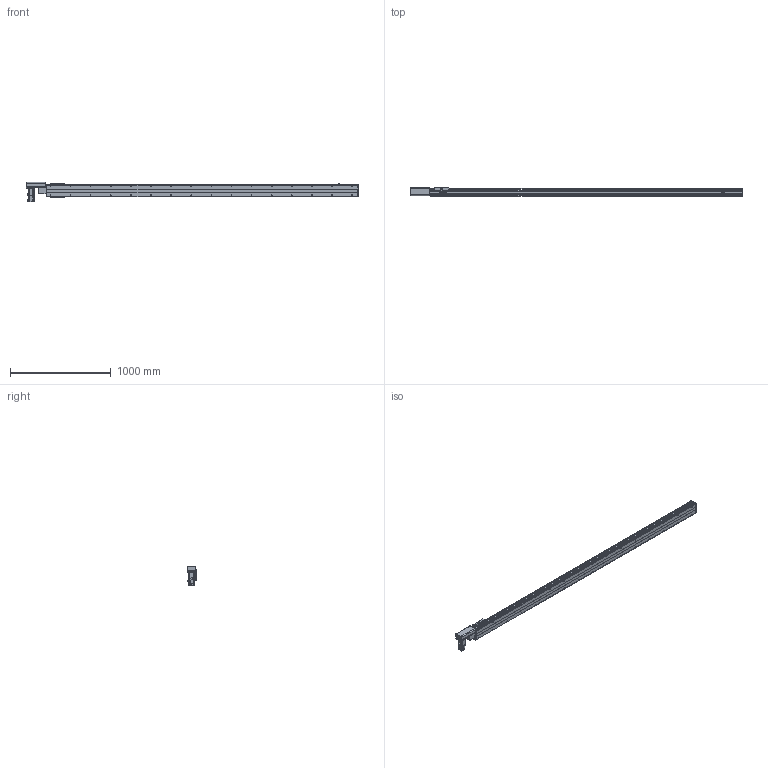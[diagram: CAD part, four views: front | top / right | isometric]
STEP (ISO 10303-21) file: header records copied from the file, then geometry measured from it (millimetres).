
FILE_DESCRIPTION( ( 'STEP AP214' ), '1' );
FILE_NAME( 'x:/temp/worker_27/temp/exporttempdir_6708_31_ro7HN/format_0/PBS120-P40-S2800-R-T40-C1-N(0).stp', '2022-06-06T00:11:16', ( 'License CC BY-ND 4.0' ), ( 'CADENAS' ), ' ', 'PARTsolutions', ' ' );
FILE_SCHEMA( ( 'AUTOMOTIVE_DESIGN { 1 0 10303 214 1 1 1 1 }' ) );
Length unit declared in the file: millimetre
Products named in the file (7): PBS120-P40-S2800-R-T40-C1-N(0); _PBS120-S2800()_body; _PBS120T-R_motors; _T40-p1; _PBS120_sliser; _PBS120_plant; _PBS120_sensor
Assembly tree (8 placements, depth 2):
  PBS120-P40-S2800-R-T40-C1-N(0)
    _PBS120-S2800()_body
    _PBS120T-R_motors
    _T40-p1
    _PBS120_sliser
    _PBS120_plant
    _PBS120_sensor  x3
Bounding box: 3301 x 83 x 189.7 mm (x, y, z)
Volume: 11820314.6 mm3; surface area: 2456349.3 mm2
Topology: 8 solids, 8 shells, 876 faces, 2236 edges, 1435 vertices
Faces by surface type: plane 565, cylinder 245, cone 64, torus 2
Full cylindrical faces by diameter (mm): 2.459 x6, 3.242 x4, 4 x2, 4.134 x4, 4.5 x10, 4.917 x36, 5.5 x11, 6 x2, 6.6 x1, 7 x2, 8.5 x4, 9 x4, 12 x1, 14 x1, 30 x2, 40 x1, 50 x2
Entity records: 28668 total; most frequent: DIRECTION 3932, CARTESIAN_POINT 3821, ORIENTED_EDGE 3598, EDGE_CURVE 1799, AXIS2_PLACEMENT_3D 1352, VERTEX_POINT 1241, LINE 1228, VECTOR 1228
